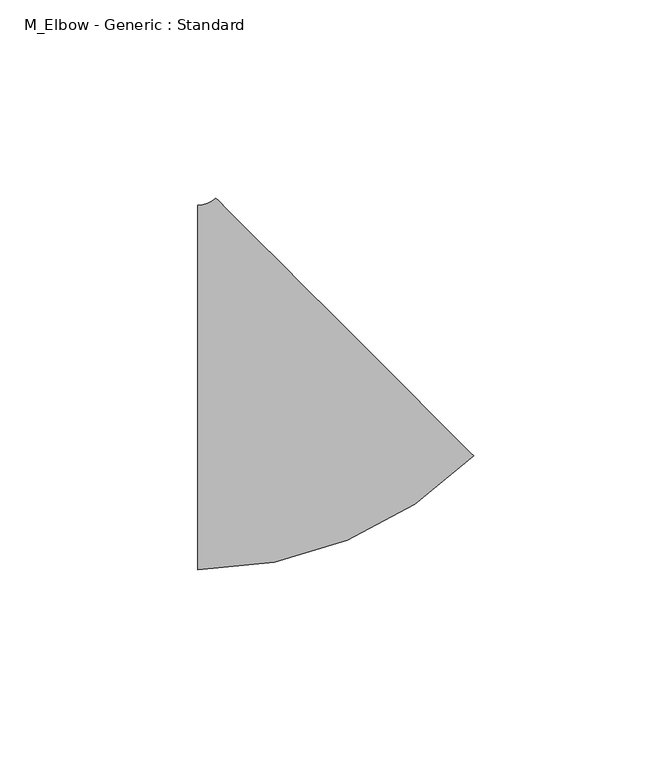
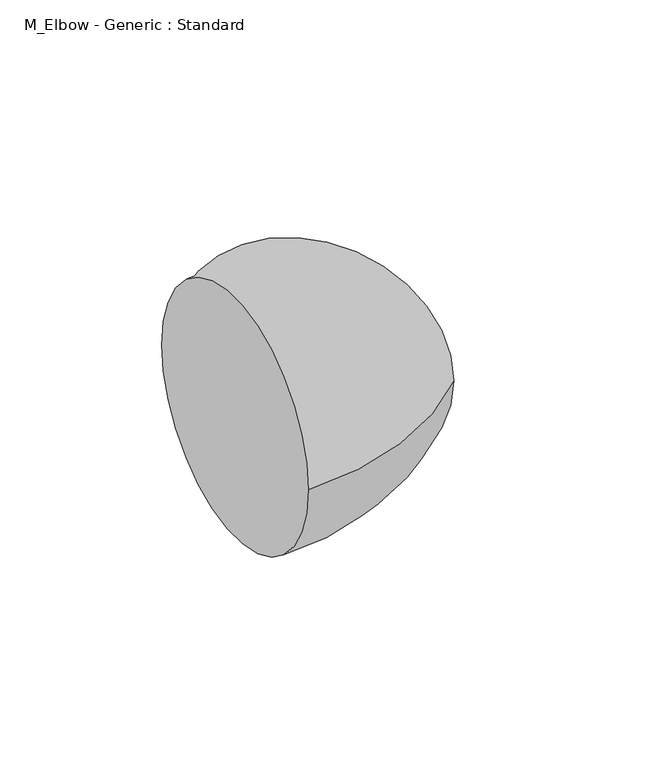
"""IFC4 building model written with IfcOpenShell, lengths in millimetres: pipe fitting geometry, M_Elbow - Generic : Standard."""

from ifc_helpers import new_model, si_unit, point, frame, origin, place, context, project, spatial, circle_curve, ellipse_curve, trimmed, source, transform, mapped, element, save
from ifc_brep_helpers import plane_surface, revolved_surface, advanced_brep


def m_elbow_generic_standard_31d8939e(model_context):
    return source(origin(), model_context, "Body", "AdvancedBrep", [
        advanced_brep(
        [(-21.699613, -46.0375, 0.0), (-21.699613, 46.0375, 0.0), (47.8973719, -17.2094849, 0.0), (-17.2094849, 47.8973719, 0.0)],
        [
            (0, 1, circle_curve(frame((-21.699613, 0.0, 0.0), z_axis=(-1.0, 0.0, 0.0), x_axis=(0.0, 1.0, 0.0)), 46.0375)),
            (1, 0, circle_curve(frame((-21.699613, 0.0, 0.0), z_axis=(-1.0, 0.0, 0.0), x_axis=(0.0, 1.0, 0.0)), 46.0375)),
            (2, 3, circle_curve(frame((15.3439435, 15.3439435, 0.0), z_axis=(0.7071067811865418, 0.7071067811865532, 0.0), x_axis=(-0.7071067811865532, 0.7071067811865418, 0.0)), 46.0375)),
            (3, 2, circle_curve(frame((15.3439435, 15.3439435, 0.0), z_axis=(0.7071067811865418, 0.7071067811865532, 0.0), x_axis=(-0.7071067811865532, 0.7071067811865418, 0.0)), 46.0375)),
            (3, 1, circle_curve(frame((-21.699613, 52.3875, 0.0), z_axis=(0.0, 0.0, -1.0), x_axis=(0.0, -1.0, 0.0)), 6.35)),
            (0, 2, circle_curve(frame((-21.699613, 52.3875, 0.0), z_axis=(0.0, 0.0, 1.0), x_axis=(0.0, -1.0, 0.0)), 98.425)),
        ],
        [
            plane_surface(frame((-21.699613, 0.0, 0.0), z_axis=(-1.0, 0.0, 0.0), x_axis=(0.0, 0.0, 1.0))),
            plane_surface(frame((15.3439435, 15.3439435, 0.0), z_axis=(0.7071067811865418, 0.7071067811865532, 0.0), x_axis=(0.0, 0.0, 1.0))),
            revolved_surface(trimmed(ellipse_curve(frame((-21.699613, 0.0, 0.0), z_axis=(-1.0, 0.0, 0.0), x_axis=(0.0, 1.0, 0.0)), 46.0375, 46.0375), [point((-21.699613, -46.0375, 0.0))], [point((-21.699613, 46.0375, 0.0))], True, "CARTESIAN"), (-21.699613, 52.3875, 0.0), (0.0, 0.0, 1.0)),
            revolved_surface(trimmed(ellipse_curve(frame((-21.699613, 0.0, 0.0), z_axis=(-1.0, 0.0, 0.0), x_axis=(0.0, 1.0, 0.0)), 46.0375, 46.0375), [point((-21.699613, 46.0375, 0.0))], [point((-21.699613, -46.0375, 0.0))], True, "CARTESIAN"), (-21.699613, 52.3875, 0.0), (0.0, 0.0, 1.0)),
        ],
        [
            (0, [[1, 2]]),
            (1, [[3, 4]]),
            (2, [[5, -1, 6, -4]]),
            (3, [[-6, -2, -5, -3]]),
        ],
    ),
    ])


if __name__ == "__main__":
    model = new_model("IFC4")
    model_context = context("Model", 3, world=origin())
    ifc_project = project(units=[si_unit("LENGTHUNIT", "METRE", prefix="MILLI")], contexts=[model_context])
    site = spatial("IfcSite", under=ifc_project)
    building = spatial("IfcBuilding", under=site)
    placement = place(None, origin())
    m_elbow_generic_standard_shape = m_elbow_generic_standard_31d8939e(model_context)
    element("IfcPipeFitting", 1, ObjectType="M_Elbow - Generic : Standard", at=placement, inside=building, context=model_context, shape_type="MappedRepresentation", body=[
        mapped(m_elbow_generic_standard_shape, transform((0.0, 0.0, 0.0), x_axis=(1.0, 0.0, 0.0), y_axis=(0.0, 1.0, 0.0), z_axis=(0.0, 0.0, 1.0))),
    ])
    save(model, "model.ifc")
